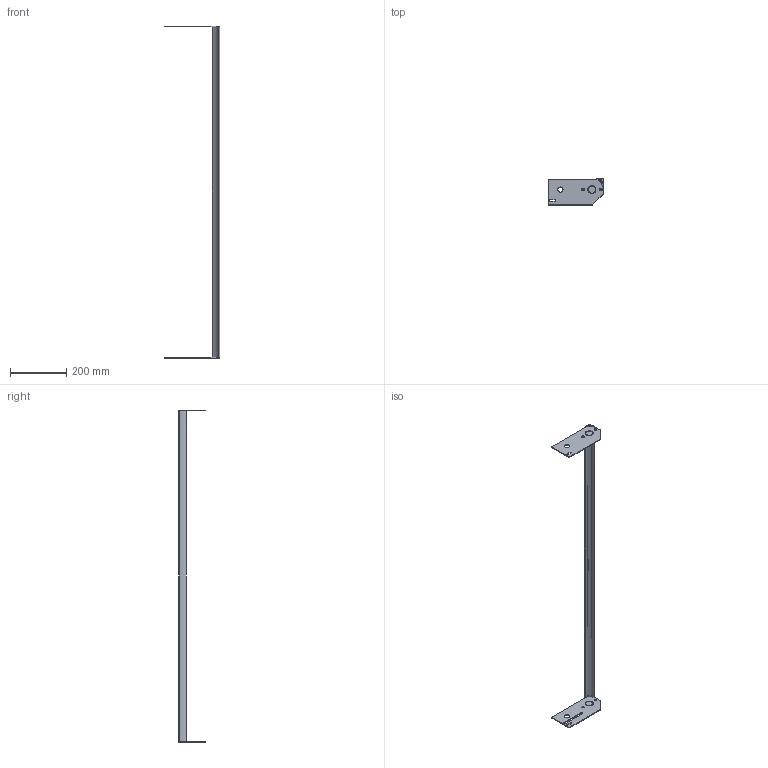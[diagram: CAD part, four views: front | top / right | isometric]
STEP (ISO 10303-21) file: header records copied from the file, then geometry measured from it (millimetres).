
FILE_DESCRIPTION((''),'2;1');
FILE_NAME('351040-46_ASM','2023-03-15T',('jenni.wallner'),(''),'PRO/ENGINEER BY PARAMETRIC TECHNOLOGY CORPORATION, 2012420','PRO/ENGINEER BY PARAMETRIC TECHNOLOGY CORPORATION, 2012420','');
FILE_SCHEMA(('CONFIG_CONTROL_DESIGN'));
Length unit declared in the file: inch
Products named in the file (6): 350538; 350539-WW_350539-46; 9304XXM_930410M; 350537; ASM0001_ASM; 351040-46_ASM
Assembly tree (8 placements, depth 3):
  351040-46_ASM
    ASM0001_ASM
      350538
      350539-WW_350539-46
      9304XXM_930410M  x4
      350537
Bounding box: 196.06 x 92.74 x 1180.74 mm (x, y, z)
Volume: 430641.5 mm3; surface area: 199390.9 mm2
Topology: 7 solids, 7 shells, 216 faces, 536 edges, 334 vertices
Faces by surface type: cylinder 80, plane 76, cone 60
Entity records: 4967 total; most frequent: CARTESIAN_POINT 903, DIRECTION 885, ORIENTED_EDGE 790, EDGE_CURVE 395, AXIS2_PLACEMENT_3D 339, VERTEX_POINT 256, VECTOR 207, LINE 207
